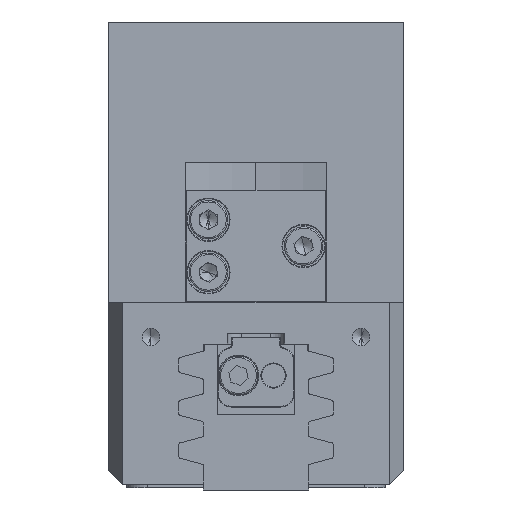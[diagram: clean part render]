
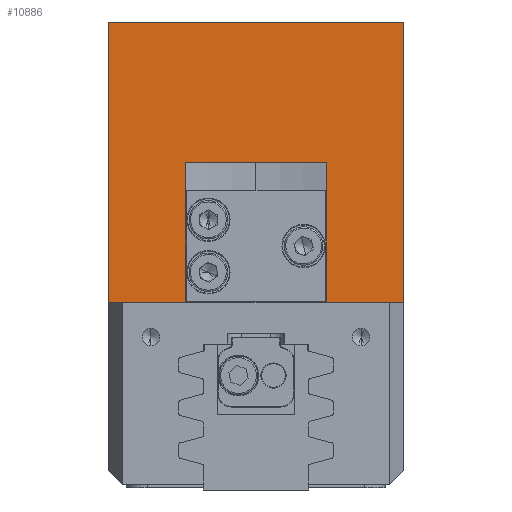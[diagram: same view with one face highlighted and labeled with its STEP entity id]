
A CAD part, left-side view. The second image highlights one B-rep face of the part: STEP entity #10886.
In plain terms, the highlighted planar face has unit normal (-1, 0, 0).
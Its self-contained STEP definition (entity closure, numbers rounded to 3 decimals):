
#225 = VERTEX_POINT ( 'NONE', #26958 ) ;
#1717 = VERTEX_POINT ( 'NONE', #14401 ) ;
#1986 = EDGE_CURVE ( 'NONE', #33549, #3392, #10149, .T. ) ;
#2065 = DIRECTION ( 'NONE',  ( 0., 0., -1. ) ) ;
#2576 = VECTOR ( 'NONE', #40537, 1000. ) ;
#3325 = ORIENTED_EDGE ( 'NONE', *, *, #35113, .T. ) ;
#3329 = EDGE_CURVE ( 'NONE', #8857, #3392, #32075, .T. ) ;
#3392 = VERTEX_POINT ( 'NONE', #40836 ) ;
#3481 = EDGE_CURVE ( 'NONE', #18593, #1717, #19430, .T. ) ;
#3765 = DIRECTION ( 'NONE',  ( 0., 0., 1. ) ) ;
#4356 = CARTESIAN_POINT ( 'NONE',  ( -32.78, 12.693, 19. ) ) ;
#4670 = EDGE_LOOP ( 'NONE', ( #36760, #3325, #22783, #11836 ) ) ;
#4899 = VERTEX_POINT ( 'NONE', #33942 ) ;
#4950 = LINE ( 'NONE', #16538, #27189 ) ;
#4985 = CARTESIAN_POINT ( 'NONE',  ( -32.78, 29.312, 19. ) ) ;
#6471 = DIRECTION ( 'NONE',  ( 0., 1., 0. ) ) ;
#7875 = ORIENTED_EDGE ( 'NONE', *, *, #30892, .T. ) ;
#8332 = EDGE_CURVE ( 'NONE', #8337, #18593, #4950, .T. ) ;
#8337 = VERTEX_POINT ( 'NONE', #23595 ) ;
#8589 = VERTEX_POINT ( 'NONE', #38326 ) ;
#8857 = VERTEX_POINT ( 'NONE', #9401 ) ;
#9370 = VECTOR ( 'NONE', #32819, 1000. ) ;
#9401 = CARTESIAN_POINT ( 'NONE',  ( -32.78, -18.207, 3. ) ) ;
#9546 = CARTESIAN_POINT ( 'NONE',  ( -32.78, -18.207, 23. ) ) ;
#10149 = LINE ( 'NONE', #22298, #17010 ) ;
#10491 = VECTOR ( 'NONE', #14742, 1000. ) ;
#10758 = ORIENTED_EDGE ( 'NONE', *, *, #3329, .F. ) ;
#10886 = ADVANCED_FACE ( 'NONE', ( #43639, #29931, #18833 ), #40690, .F. ) ;
#11072 = CARTESIAN_POINT ( 'NONE',  ( -32.78, -18.207, -23. ) ) ;
#11527 = LINE ( 'NONE', #25903, #9370 ) ;
#11540 = DIRECTION ( 'NONE',  ( 0., -1., 0. ) ) ;
#11836 = ORIENTED_EDGE ( 'NONE', *, *, #8332, .T. ) ;
#11991 = EDGE_CURVE ( 'NONE', #33427, #8337, #25164, .T. ) ;
#14401 = CARTESIAN_POINT ( 'NONE',  ( -32.78, 12.693, 18.9 ) ) ;
#14742 = DIRECTION ( 'NONE',  ( 0., 0., 1. ) ) ;
#14946 = ORIENTED_EDGE ( 'NONE', *, *, #33764, .T. ) ;
#15292 = LINE ( 'NONE', #41055, #33231 ) ;
#15976 = CARTESIAN_POINT ( 'NONE',  ( -32.78, 12.693, 3.1 ) ) ;
#16538 = CARTESIAN_POINT ( 'NONE',  ( -32.78, 12.793, 3.1 ) ) ;
#16989 = LINE ( 'NONE', #11072, #24324 ) ;
#17010 = VECTOR ( 'NONE', #2065, 1000. ) ;
#17075 = EDGE_CURVE ( 'NONE', #8589, #4899, #21725, .T. ) ;
#17584 = CARTESIAN_POINT ( 'NONE',  ( -32.78, -18.207, 43. ) ) ;
#18191 = DIRECTION ( 'NONE',  ( 0., 0., -1. ) ) ;
#18593 = VERTEX_POINT ( 'NONE', #15976 ) ;
#18833 = FACE_OUTER_BOUND ( 'NONE', #41431, .T. ) ;
#19125 = ORIENTED_EDGE ( 'NONE', *, *, #41367, .T. ) ;
#19430 = LINE ( 'NONE', #4356, #10491 ) ;
#21482 = VECTOR ( 'NONE', #11540, 1000. ) ;
#21725 = LINE ( 'NONE', #38436, #39653 ) ;
#22057 = VECTOR ( 'NONE', #35390, 1000. ) ;
#22298 = CARTESIAN_POINT ( 'NONE',  ( -32.78, 23.793, -23. ) ) ;
#22783 = ORIENTED_EDGE ( 'NONE', *, *, #11991, .T. ) ;
#22869 = ORIENTED_EDGE ( 'NONE', *, *, #1986, .T. ) ;
#23595 = CARTESIAN_POINT ( 'NONE',  ( -32.78, -7.107, 3.1 ) ) ;
#23598 = DIRECTION ( 'NONE',  ( 1., 0., 0. ) ) ;
#24324 = VECTOR ( 'NONE', #3765, 1000. ) ;
#25164 = LINE ( 'NONE', #30842, #37301 ) ;
#25903 = CARTESIAN_POINT ( 'NONE',  ( -32.78, -7.254, 19. ) ) ;
#26234 = DIRECTION ( 'NONE',  ( 0., -1., 0. ) ) ;
#26958 = CARTESIAN_POINT ( 'NONE',  ( -32.78, -7.254, 19. ) ) ;
#27189 = VECTOR ( 'NONE', #6471, 1000. ) ;
#27638 = DIRECTION ( 'NONE',  ( 0., -1., 0. ) ) ;
#27980 = DIRECTION ( 'NONE',  ( 0., 0., 1. ) ) ;
#29643 = ORIENTED_EDGE ( 'NONE', *, *, #34495, .F. ) ;
#29826 = EDGE_LOOP ( 'NONE', ( #42195, #14946, #19125, #41947 ) ) ;
#29931 = FACE_BOUND ( 'NONE', #29826, .T. ) ;
#30798 = DIRECTION ( 'NONE',  ( 0., 1., 0. ) ) ;
#30842 = CARTESIAN_POINT ( 'NONE',  ( -32.78, -7.107, 3. ) ) ;
#30892 = EDGE_CURVE ( 'NONE', #8857, #39577, #16989, .T. ) ;
#30947 = CARTESIAN_POINT ( 'NONE',  ( -32.78, 29.312, 3. ) ) ;
#31033 = LINE ( 'NONE', #4985, #22057 ) ;
#31094 = CARTESIAN_POINT ( 'NONE',  ( -32.78, -7.207, 18.9 ) ) ;
#32075 = LINE ( 'NONE', #39814, #2576 ) ;
#32819 = DIRECTION ( 'NONE',  ( 0., 0., -1. ) ) ;
#33231 = VECTOR ( 'NONE', #27638, 1000. ) ;
#33373 = CARTESIAN_POINT ( 'NONE',  ( -32.78, -7.107, 18.9 ) ) ;
#33427 = VERTEX_POINT ( 'NONE', #33373 ) ;
#33549 = VERTEX_POINT ( 'NONE', #41576 ) ;
#33764 = EDGE_CURVE ( 'NONE', #4899, #42415, #35507, .T. ) ;
#33942 = CARTESIAN_POINT ( 'NONE',  ( -32.78, 12.84, 23. ) ) ;
#34495 = EDGE_CURVE ( 'NONE', #33549, #39577, #15292, .T. ) ;
#35113 = EDGE_CURVE ( 'NONE', #1717, #33427, #36833, .T. ) ;
#35390 = DIRECTION ( 'NONE',  ( 0., -1., 0. ) ) ;
#35507 = LINE ( 'NONE', #9546, #39169 ) ;
#35686 = CARTESIAN_POINT ( 'NONE',  ( -32.78, -7.254, 23. ) ) ;
#36760 = ORIENTED_EDGE ( 'NONE', *, *, #3481, .T. ) ;
#36833 = LINE ( 'NONE', #31094, #21482 ) ;
#37117 = EDGE_CURVE ( 'NONE', #8589, #225, #31033, .T. ) ;
#37301 = VECTOR ( 'NONE', #18191, 1000. ) ;
#38326 = CARTESIAN_POINT ( 'NONE',  ( -32.78, 12.84, 19. ) ) ;
#38436 = CARTESIAN_POINT ( 'NONE',  ( -32.78, 12.84, 19. ) ) ;
#39169 = VECTOR ( 'NONE', #26234, 1000. ) ;
#39540 = AXIS2_PLACEMENT_3D ( 'NONE', #30947, #23598, #30798 ) ;
#39577 = VERTEX_POINT ( 'NONE', #17584 ) ;
#39653 = VECTOR ( 'NONE', #27980, 1000. ) ;
#39814 = CARTESIAN_POINT ( 'NONE',  ( -32.78, 29.312, 3. ) ) ;
#40537 = DIRECTION ( 'NONE',  ( 0., 1., 0. ) ) ;
#40690 = PLANE ( 'NONE',  #39540 ) ;
#40836 = CARTESIAN_POINT ( 'NONE',  ( -32.78, 23.793, 3. ) ) ;
#41055 = CARTESIAN_POINT ( 'NONE',  ( -32.78, -18.207, 43. ) ) ;
#41367 = EDGE_CURVE ( 'NONE', #42415, #225, #11527, .T. ) ;
#41431 = EDGE_LOOP ( 'NONE', ( #29643, #22869, #10758, #7875 ) ) ;
#41576 = CARTESIAN_POINT ( 'NONE',  ( -32.78, 23.793, 43. ) ) ;
#41947 = ORIENTED_EDGE ( 'NONE', *, *, #37117, .F. ) ;
#42195 = ORIENTED_EDGE ( 'NONE', *, *, #17075, .T. ) ;
#42415 = VERTEX_POINT ( 'NONE', #35686 ) ;
#43639 = FACE_BOUND ( 'NONE', #4670, .T. ) ;
